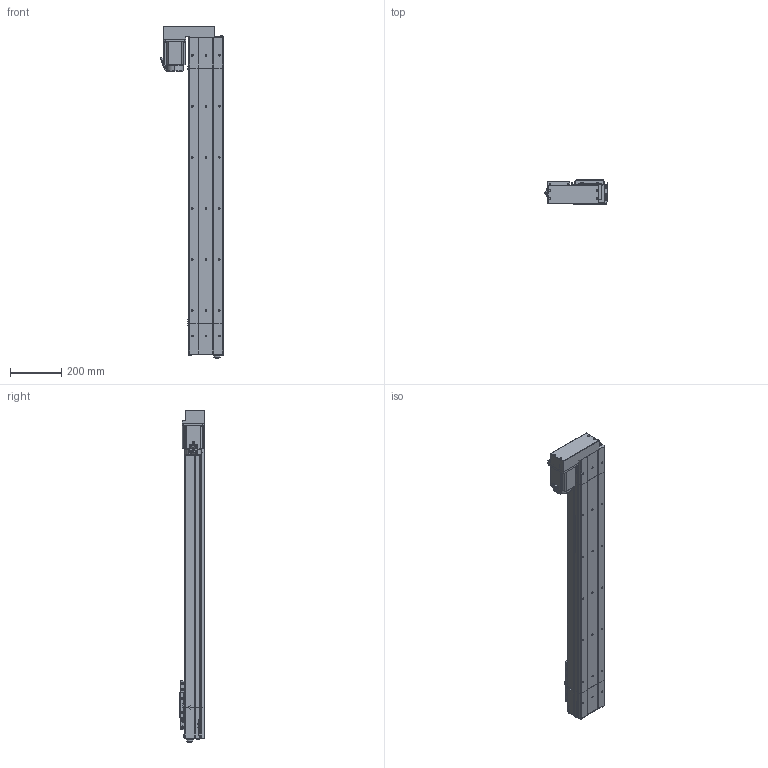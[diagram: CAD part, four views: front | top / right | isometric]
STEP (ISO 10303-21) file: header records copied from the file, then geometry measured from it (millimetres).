
FILE_DESCRIPTION (( 'STEP AP214' ), '1' );
FILE_NAME ('D14 CSH BR S1000.STEP', '2010-06-29T15:25:14', ( 'Conseil Régional Haute-Normandie' ), ( 'Conseil Régional Haute-Normandie' ), 'SwSTEP 2.0', 'SolidWorks 2010', '' );
FILE_SCHEMA (( 'AUTOMOTIVE_DESIGN' ));
Length unit declared in the file: millimetre
Products named in the file (26): plaque de bout tail d14; course CSH S1000; vis CHC M5.5; Conecteur_Default; couvercle CSH course S1000; codeur GMB 90 100 310; corps  CSH 1000; Conecteur2_Default; corps tail d14; Tail D14; chariot supérieur D14; charriot inférieur D14; Vis CHC M8; chariot D14; plaque de maintient D14; vis CHC M7; couvercle tail; vis CHC M5; couvercle head d14; corps GMB 90 100 310; avant GMB 90 100 310; GMB 90 100 310; plaque de bout head d14 BR; corps head d14; Head D14  CSH BR; D14 CSH BR S1000
Assembly tree (48 placements, depth 4):
  D14 CSH BR S1000
    course CSH S1000
      couvercle CSH course S1000
      corps  CSH 1000
    Tail D14
      vis CHC M7  x4
      plaque de bout tail d14
      Vis CHC M8  x2
      couvercle tail
      corps tail d14
      plaque de maintient D14
    chariot D14
      vis CHC M7  x8
      vis CHC M5  x4
      chariot supérieur D14
      charriot inférieur D14
    Head D14  CSH BR
      vis CHC M7  x2
      vis CHC M5.5  x4
      plaque de maintient D14
      couvercle head d14
      corps head d14
      Vis CHC M8  x2
      plaque de bout head d14 BR
      GMB 90 100 310
        Conecteur2_Default
        avant GMB 90 100 310
        corps GMB 90 100 310
        codeur GMB 90 100 310
        Conecteur_Default
Bounding box: 250.75 x 95.75 x 1301.3 mm (x, y, z)
Volume: 4704401.8 mm3; surface area: 1379188.2 mm2
Topology: 49 solids, 49 shells, 2450 faces, 6309 edges, 4156 vertices
Faces by surface type: plane 1375, bspline 538, cylinder 424, torus 61, cone 52
Entity records: 107804 total; most frequent: CARTESIAN_POINT 58029, ORIENTED_EDGE 10870, DIRECTION 8144, EDGE_CURVE 5435, LINE 3650, VECTOR 3650, VERTEX_POINT 3604, EDGE_LOOP 2321
